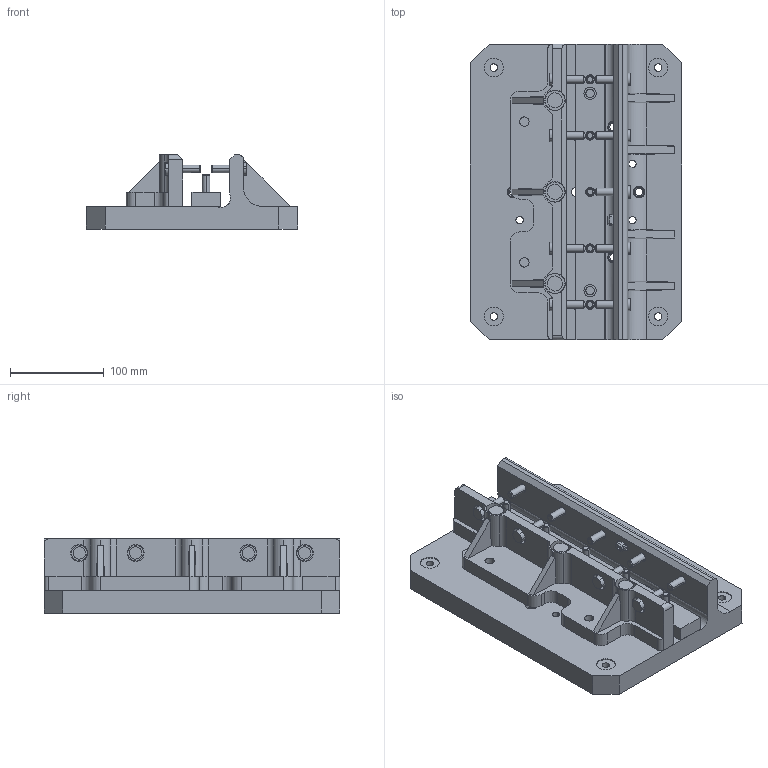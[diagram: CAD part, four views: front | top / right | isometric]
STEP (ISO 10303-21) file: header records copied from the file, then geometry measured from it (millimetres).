
FILE_DESCRIPTION(('STEP AP214'),'1');
FILE_NAME('EGT055_1706186_FLANSCHPLATTE_SW50.CATPart.stp','2015-09-14T13:06:25',('3D-Tool'),(' '),'Spatial InterOp 3D',' ',' ');
FILE_SCHEMA(('automotive_design'));
Length unit declared in the file: millimetre
Products named in the file (39): EGT055_1706186_FLANSCHPLATTE_SW50|EGT055_FLANSCHPLATTE_SW50|Bohrbearbeitung; EGT055_1706186_FLANSCHPLATTE_SW50|Winkel_fuer_Aufnahmeadapter|Translate.2; EGT055_1706186_FLANSCHPLATTE_SW50|Grosses_Gussteil|Bohrbearbeitung; 1; 2; 3; 4; 5; 6; 7; 8; 9; 10; 11; 12; 13; 14; 15; 16; 17; 18; 19; EGT055_1706186_FLANSCHPLATTE_SW50|Zentrierstift Vario-Handlingsystem|Chamfer.7; 20; 21; 22; 23; 24; 25; 26; 27; 28; 29; 30; 31; 32; 33; 34; 35
Bounding box: 225 x 315 x 79 mm (x, y, z)
Volume: 2512477.7 mm3; surface area: 390577.6 mm2
Topology: 35 solids, 35 shells, 973 faces, 2416 edges, 1572 vertices
Faces by surface type: cylinder 622, plane 198, cone 153
Entity records: 39172 total; most frequent: CARTESIAN_POINT 5845, DIRECTION 5786, ORIENTED_EDGE 4832, AXIS2_PLACEMENT_3D 2419, EDGE_CURVE 2416, VERTEX_POINT 1568, CIRCLE 1407, EDGE_LOOP 1162
